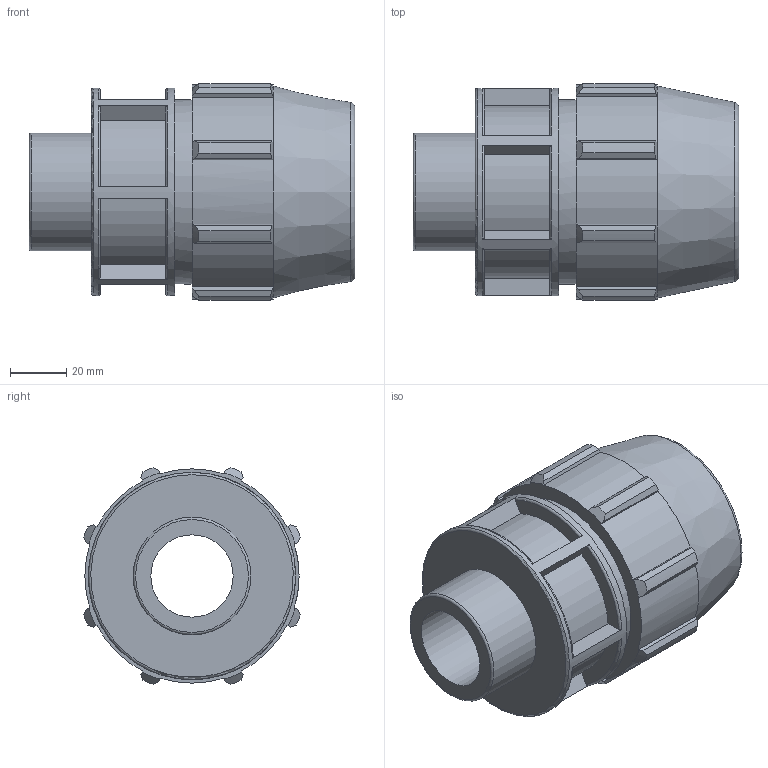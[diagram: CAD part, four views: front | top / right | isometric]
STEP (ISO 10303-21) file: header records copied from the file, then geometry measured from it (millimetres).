
FILE_DESCRIPTION(/* description */ ('PLASSON MALE ADAPTOR 1 1/4'''' - 1 1/4''''M'),/* implementation_level */ '2;1');
FILE_NAME(/* name */ 'C:\Dropbox\KIMPROJECTS-Inventor 2019\99-16-3568-Processing Inch\ASTM Compression 2021\0702M0T\0702M0T13013.ipt.stp',/* time_stamp */ '2021-08-26T12:30:17+03:00',/* author */ ('KIM'),/* organization */ (''),/* preprocessor_version */ 'ST-DEVELOPER v17.2',/* originating_system */ 'Autodesk Inventor 2019',/* authorisation */ '');
FILE_SCHEMA (('AUTOMOTIVE_DESIGN { 1 0 10303 214 3 1 1 }'));
Length unit declared in the file: inch
Products named in the file (1): 0702M0T13013
Bounding box: 116.08 x 77.2 x 77.2 mm (x, y, z)
Volume: 251761.7 mm3; surface area: 51498.2 mm2
Topology: 1 solids, 1 shells, 117 faces, 327 edges, 223 vertices
Faces by surface type: plane 63, cylinder 27, torus 15, cone 12
Full cylindrical faces by diameter (mm): 29.337 x1, 41.91 x1, 42.1 x1, 65.634 x1, 73.838 x1
Entity records: 4135 total; most frequent: CARTESIAN_POINT 948, ORIENTED_EDGE 654, DIRECTION 625, EDGE_CURVE 327, AXIS2_PLACEMENT_3D 236, VERTEX_POINT 223, LINE 153, VECTOR 153
